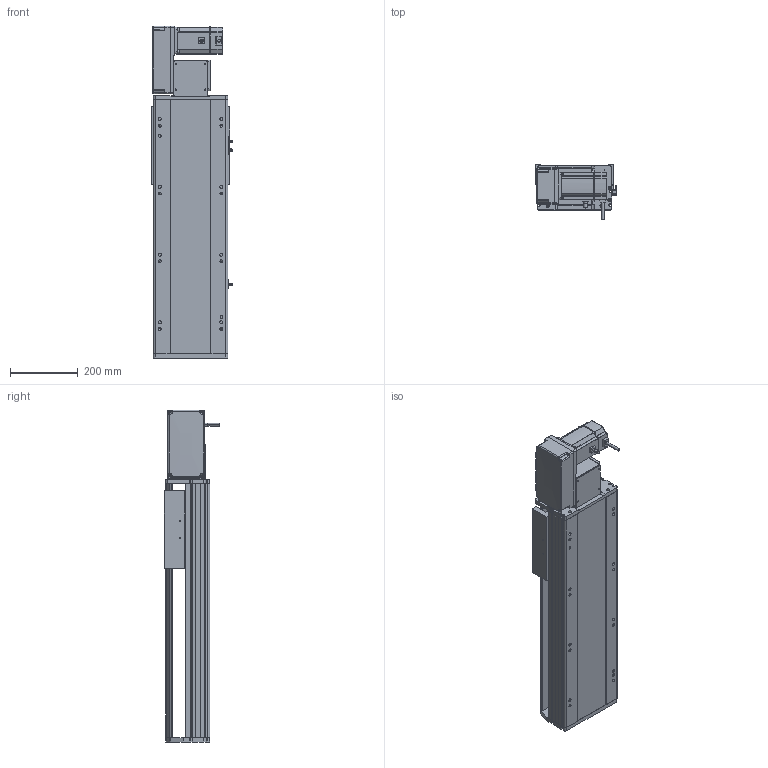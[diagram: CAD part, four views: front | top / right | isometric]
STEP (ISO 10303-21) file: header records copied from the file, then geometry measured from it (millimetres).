
FILE_DESCRIPTION (( 'STEP AP214' ), '1' );
FILE_NAME ('RTB22S-XX-400-L-M75-C4.STEP', '2025-12-12T03:11:58', ( '' ), ( '' ), 'SwSTEP 2.0', 'SolidWorks 2018', '' );
FILE_SCHEMA (( 'AUTOMOTIVE_DESIGN' ));
Length unit declared in the file: millimetre
Products named in the file (14): RTB22S-L-々湍釱蚾饜^RTB22S-XX-XX-L-M75-C4; RTB22S-L-011菁釱^RTB22S-XX-XX-L-M75-C4; RTB22S-GY-008-M75--萇儂啣^RTB22S-L-々湍釱蚾饜_RTB22S-XX-XX-L-M75-C4; RTB22S-GY-018P^RTB22S-L-々湍釱蚾饜_RTB22S-XX-XX-L-M75-C4; RTB22S-GY-005P^RTB22S-L-々湍釱蚾饜_RTB22S-XX-XX-L-M75-C4; RTB22S-GY-014--々湍釱^RTB22S-L-々湍釱蚾饜_RTB22S-XX-XX-L-M75-C4; RTB22S-GY-017P^RTB22S-L-々湍釱蚾饜_RTB22S-XX-XX-L-M75-C4; RTB22S-XX-400-L-M75-C4; RTB22S-GY-001耜裔^RTB22S-XX-XX-L-M75-C4; RTB22S-GY-007奻裔^RTB22S-XX-XX-L-M75-C4; RTB22S-L-004賑釱^RTB22S-XX-XX-L-M75-C4; OMRON EE-SX672 传感器^RTB22S-XX-XX-L-M75-C4; 750W萇儂^RTB22S-XX-XX-L-M75-C4; RTH22-GY-013外置感应片^RTB22S-XX-XX-L-M75-C4
Assembly tree (16 placements, depth 3):
  RTB22S-XX-400-L-M75-C4
    RTB22S-L-011菁釱^RTB22S-XX-XX-L-M75-C4
    750W萇儂^RTB22S-XX-XX-L-M75-C4
    RTB22S-L-004賑釱^RTB22S-XX-XX-L-M75-C4
    OMRON EE-SX672 传感器^RTB22S-XX-XX-L-M75-C4  x3
    RTH22-GY-013外置感应片^RTB22S-XX-XX-L-M75-C4
    RTB22S-GY-007奻裔^RTB22S-XX-XX-L-M75-C4
    RTB22S-GY-001耜裔^RTB22S-XX-XX-L-M75-C4
    RTB22S-L-々湍釱蚾饜^RTB22S-XX-XX-L-M75-C4
      RTB22S-GY-014--々湍釱^RTB22S-L-々湍釱蚾饜_RTB22S-XX-XX-L-M75-C4
      RTB22S-GY-017P^RTB22S-L-々湍釱蚾饜_RTB22S-XX-XX-L-M75-C4  x2
      RTB22S-GY-005P^RTB22S-L-々湍釱蚾饜_RTB22S-XX-XX-L-M75-C4
      RTB22S-GY-008-M75--萇儂啣^RTB22S-L-々湍釱蚾饜_RTB22S-XX-XX-L-M75-C4
      RTB22S-GY-018P^RTB22S-L-々湍釱蚾饜_RTB22S-XX-XX-L-M75-C4
Bounding box: 238.5 x 162.7 x 979 mm (x, y, z)
Volume: 14303215.3 mm3; surface area: 1516078.4 mm2
Topology: 15 solids, 15 shells, 1911 faces, 5186 edges, 3332 vertices
Faces by surface type: plane 907, cylinder 574, bspline 296, cone 122, sphere 8, torus 4
Entity records: 50136 total; most frequent: CARTESIAN_POINT 14580, ORIENTED_EDGE 7192, DIRECTION 6850, EDGE_CURVE 3596, AXIS2_PLACEMENT_3D 2390, VERTEX_POINT 2336, VECTOR 2070, LINE 2070
